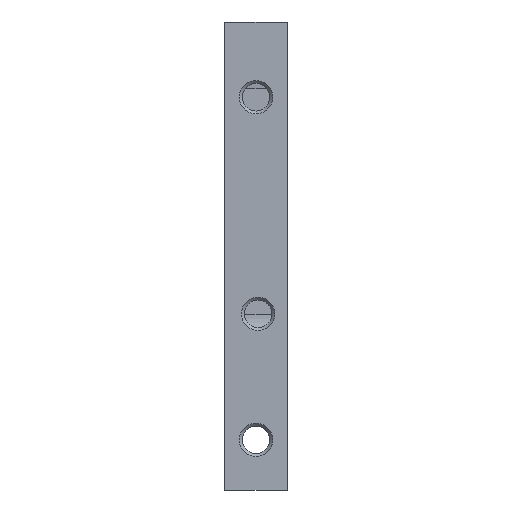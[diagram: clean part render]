
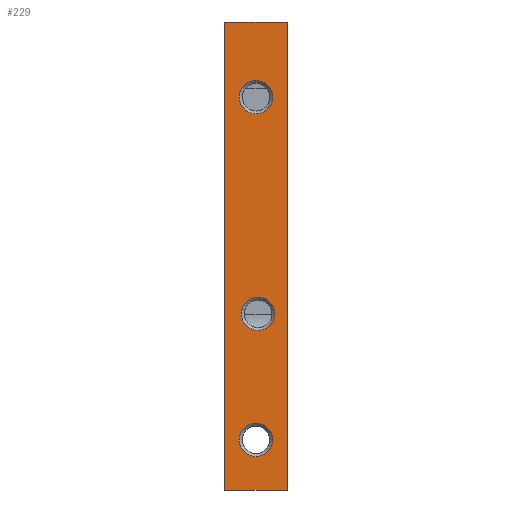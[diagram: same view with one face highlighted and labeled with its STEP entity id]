
A CAD part, left-side view. The second image highlights one B-rep face of the part: STEP entity #229.
In plain terms, the highlighted planar face has unit normal (-1, 0, 0).
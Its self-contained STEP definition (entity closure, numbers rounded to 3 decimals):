
#144=FACE_BOUND('',#470,.T.);
#145=FACE_BOUND('',#471,.T.);
#146=FACE_BOUND('',#472,.T.);
#147=FACE_BOUND('',#473,.T.);
#229=ADVANCED_FACE('',(#144,#145,#146,#147),#333,.T.);
#333=PLANE('',#2177);
#470=EDGE_LOOP('',(#1135));
#471=EDGE_LOOP('',(#1136));
#472=EDGE_LOOP('',(#1137));
#473=EDGE_LOOP('',(#1138,#1139,#1140,#1141));
#610=LINE('',#2939,#775);
#654=LINE('',#3105,#819);
#660=LINE('',#3127,#825);
#691=LINE('',#3280,#856);
#775=VECTOR('',#2332,1.);
#819=VECTOR('',#2448,1.);
#825=VECTOR('',#2466,1.);
#856=VECTOR('',#2585,1.);
#1135=ORIENTED_EDGE('',*,*,#1868,.T.);
#1136=ORIENTED_EDGE('',*,*,#1869,.T.);
#1137=ORIENTED_EDGE('',*,*,#1870,.T.);
#1138=ORIENTED_EDGE('',*,*,#1801,.F.);
#1139=ORIENTED_EDGE('',*,*,#1715,.F.);
#1140=ORIENTED_EDGE('',*,*,#1790,.T.);
#1141=ORIENTED_EDGE('',*,*,#1871,.T.);
#1513=VERTEX_POINT('',#2934);
#1515=VERTEX_POINT('',#2938);
#1581=VERTEX_POINT('',#3104);
#1592=VERTEX_POINT('',#3128);
#1647=VERTEX_POINT('',#3275);
#1648=VERTEX_POINT('',#3277);
#1649=VERTEX_POINT('',#3279);
#1715=EDGE_CURVE('',#1515,#1513,#610,.T.);
#1790=EDGE_CURVE('',#1515,#1581,#654,.T.);
#1801=EDGE_CURVE('',#1513,#1592,#660,.T.);
#1868=EDGE_CURVE('',#1647,#1647,#2049,.T.);
#1869=EDGE_CURVE('',#1648,#1648,#2050,.T.);
#1870=EDGE_CURVE('',#1649,#1649,#2051,.T.);
#1871=EDGE_CURVE('',#1581,#1592,#691,.T.);
#2049=CIRCLE('',#2174,2.);
#2050=CIRCLE('',#2175,2.);
#2051=CIRCLE('',#2176,2.);
#2174=AXIS2_PLACEMENT_3D('',#3274,#2579,#2580);
#2175=AXIS2_PLACEMENT_3D('',#3276,#2581,#2582);
#2176=AXIS2_PLACEMENT_3D('',#3278,#2583,#2584);
#2177=AXIS2_PLACEMENT_3D('',#3281,#2586,#2587);
#2332=DIRECTION('',(0.,-1.,0.));
#2448=DIRECTION('',(0.,0.,-1.));
#2466=DIRECTION('',(0.,0.,-1.));
#2579=DIRECTION('',(1.,0.,0.));
#2580=DIRECTION('',(0.,0.,1.));
#2581=DIRECTION('',(1.,0.,0.));
#2582=DIRECTION('',(0.,0.,1.));
#2583=DIRECTION('',(1.,0.,0.));
#2584=DIRECTION('',(0.,0.,1.));
#2585=DIRECTION('',(0.,-1.,0.));
#2586=DIRECTION('',(-1.,0.,0.));
#2587=DIRECTION('',(0.,-1.,0.));
#2934=CARTESIAN_POINT('',(-35.355,19.536,97.1));
#2938=CARTESIAN_POINT('',(-35.355,27.036,97.1));
#2939=CARTESIAN_POINT('',(-35.355,66.036,97.1));
#3104=CARTESIAN_POINT('',(-35.355,27.036,41.1));
#3105=CARTESIAN_POINT('',(-35.355,27.036,1.));
#3127=CARTESIAN_POINT('',(-35.355,19.536,1.));
#3128=CARTESIAN_POINT('',(-35.355,19.536,41.1));
#3274=CARTESIAN_POINT('',(-35.355,23.036,62.174));
#3275=CARTESIAN_POINT('',(-35.355,23.036,64.174));
#3276=CARTESIAN_POINT('',(-35.355,23.286,47.1));
#3277=CARTESIAN_POINT('',(-35.355,23.286,49.1));
#3278=CARTESIAN_POINT('',(-35.355,23.286,88.1));
#3279=CARTESIAN_POINT('',(-35.355,23.286,90.1));
#3280=CARTESIAN_POINT('',(-35.355,0.,41.1));
#3281=CARTESIAN_POINT('',(-35.355,0.,1.));
